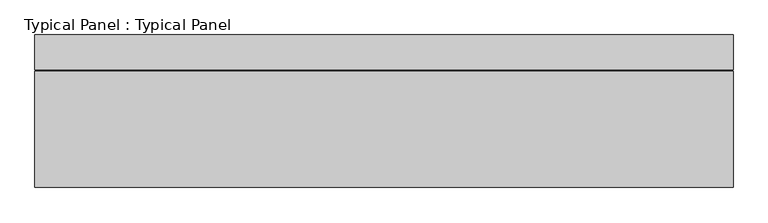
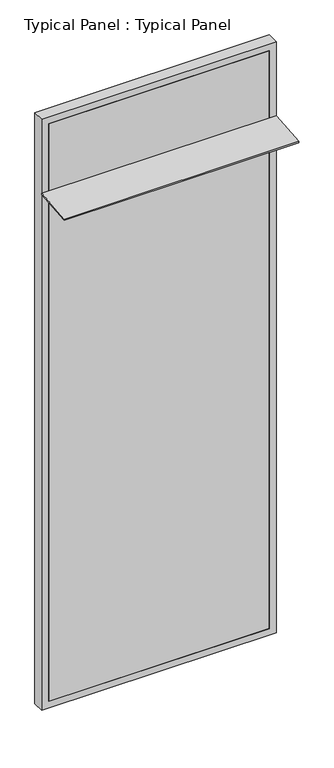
"""IFC4 building model written with IfcOpenShell, lengths in millimetres: plate geometry, Typical Panel : Typical Panel."""

from ifc_helpers import new_model, si_unit, frame, origin, place, context, project, spatial, polyline, outline, extrude, source, transform, mapped, element, save


def typical_panel_typical_panel_46698638(model_context):
    return source(origin(), model_context, "Body", "SweptSolid", [
        extrude(outline(polyline([(0.0, -250.0), (0.0, 0.0), (1500.00002, 0.0), (1500.00002, -250.0), (0.0, -250.0)])), frame((750.00001, -253.1771171, 3468.2491173), z_axis=(0.0, -0.0871557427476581, 0.9961946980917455), x_axis=(-1.0, 0.0, 0.0)), (0.0, 0.0, 1.0), 10.0),
        extrude(outline(polyline([(0.0, -750.00001), (0.0, 750.00001), (4000.0, 750.00001), (4000.0, -750.00001), (0.0, -750.00001)]), holes=[polyline([(45.0, 705.00001), (45.0, -705.00001), (3955.0, -705.00001), (3955.0, 705.00001), (45.0, 705.00001)])]), frame((0.0, -1.5797986, 0.0), z_axis=(0.0, 1.0, 0.0), x_axis=(0.0, 0.0, 1.0)), (0.0, 0.0, 1.0), 75.0),
        extrude(outline(polyline([(705.00001, -1.5797986), (-705.00001, -1.5797986), (-705.00001, 13.4202014), (705.00001, 13.4202014), (705.00001, -1.5797986)])), frame((0.0, 0.0, 45.0), z_axis=(0.0, 0.0, 1.0), x_axis=(1.0, 0.0, 0.0)), (0.0, 0.0, 1.0), 3910.0),
    ])


if __name__ == "__main__":
    model = new_model("IFC4")
    model_context = context("Model", 3, world=origin())
    ifc_project = project(units=[si_unit("LENGTHUNIT", "METRE", prefix="MILLI")], contexts=[model_context])
    site = spatial("IfcSite", under=ifc_project)
    building = spatial("IfcBuilding", under=site)
    placement = place(None, origin())
    typical_panel_typical_panel_shape = typical_panel_typical_panel_46698638(model_context)
    element("IfcPlate", 1, ObjectType="Typical Panel : Typical Panel", at=placement, inside=building, context=model_context, shape_type="MappedRepresentation", body=[
        mapped(typical_panel_typical_panel_shape, transform((0.0, 0.0, 0.0), x_axis=(1.0, 0.0, 0.0), y_axis=(0.0, 1.0, 0.0), z_axis=(0.0, 0.0, 1.0))),
    ])
    save(model, "model.ifc")
